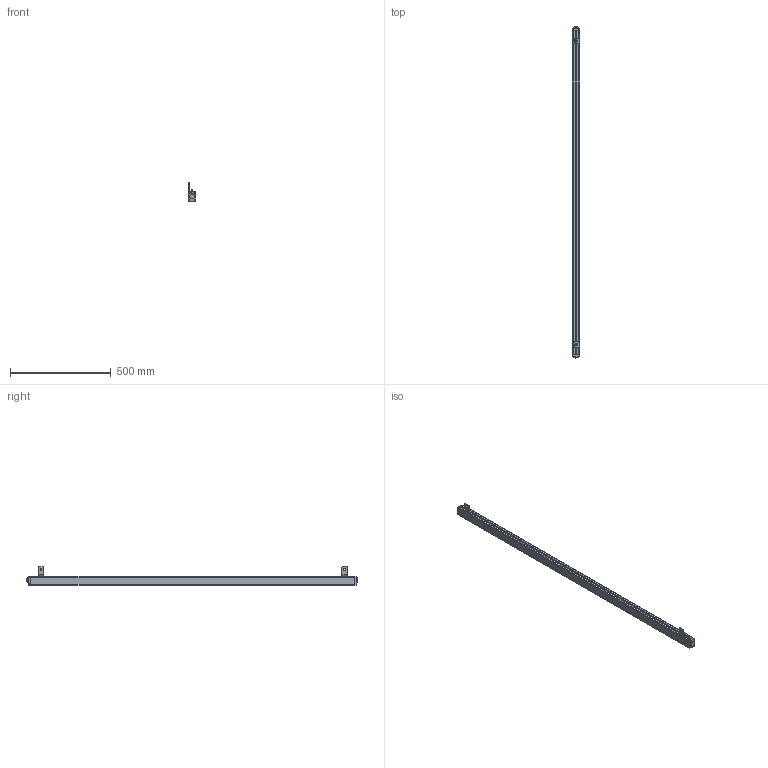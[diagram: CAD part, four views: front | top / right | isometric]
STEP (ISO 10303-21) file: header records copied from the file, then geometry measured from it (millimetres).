
FILE_DESCRIPTION((''),'2;1');
FILE_NAME('ESCL-00_ASM','2021-07-17T10:01:14',('18720616900'),(''),'CREO PARAMETRIC BY PTC INC, 2019010','CREO PARAMETRIC BY PTC INC, 2019010','');
FILE_SCHEMA(('CONFIG_CONTROL_DESIGN'));
Products named in the file (12): ESCL-00; ESCL-3-SOLID1000; ESCL-4-SOLID1000; HKCT1_-4-SOLID1; L10001; M6-8--0001; M6-1--00; M6-1-00; 00; M6-80001_ASM; L1--0001_ASM; ESCL-00_ASM
Assembly tree (12 placements, depth 4):
  ESCL-00_ASM
    ESCL-00
    ESCL-3-SOLID1000
    ESCL-4-SOLID1000
    HKCT1_-4-SOLID1
    L1--0001_ASM  x2
      L10001
      M6-80001_ASM
        M6-8--0001
        M6-1--00
        M6-1-00
        00
Bounding box: 36.1 x 1645.1 x 91.11 mm (x, y, z)
Volume: 2352240.7 mm3; surface area: 343274.2 mm2
Topology: 14 solids, 14 shells, 625 faces, 1645 edges, 1070 vertices
Faces by surface type: plane 226, cylinder 208, cone 78, bspline 66, torus 47
Entity records: 76177 total; most frequent: CARTESIAN_POINT 63991, ORIENTED_EDGE 2664, DIRECTION 2275, EDGE_CURVE 1332, VERTEX_POINT 872, AXIS2_PLACEMENT_3D 816, VECTOR 643, LINE 643
